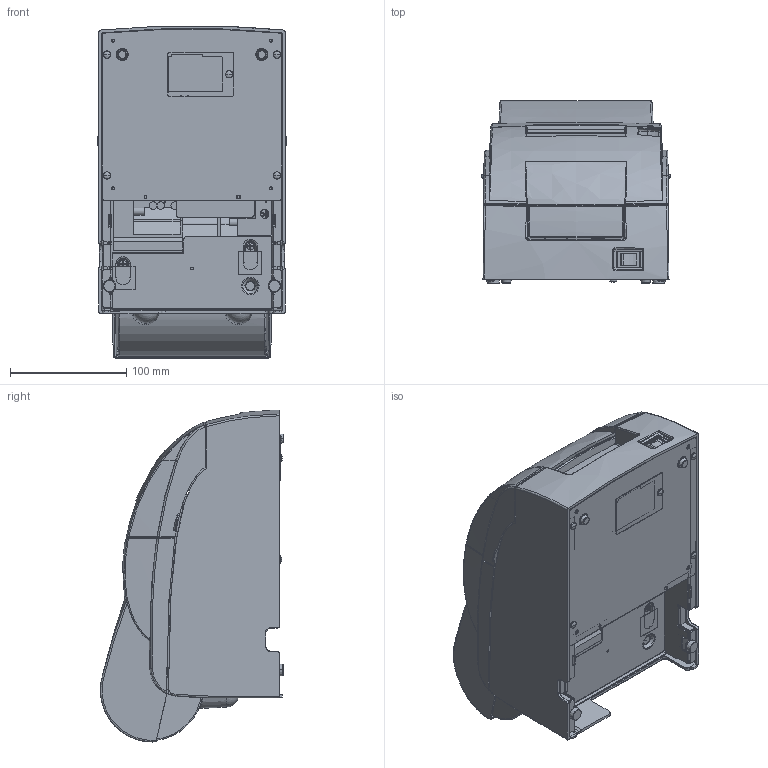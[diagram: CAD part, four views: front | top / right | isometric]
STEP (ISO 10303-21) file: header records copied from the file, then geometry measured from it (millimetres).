
FILE_DESCRIPTION((''),'2;1');
FILE_NAME('TM-U220IIA_CLOSE','2024-12-26T13:59:10',('5012938'),(''),'CREO PARAMETRIC BY PTC INC, 2022281','CREO PARAMETRIC BY PTC INC, 2022281','');
FILE_SCHEMA(('AUTOMOTIVE_DESIGN { 1 0 10303 214 1 1 1 1 }'));
Products named in the file (1): TM-U220IIA_CLOSE
Bounding box: 162.5 x 157.43 x 285.57 mm (x, y, z)
Surface area: 651595.9 mm2 (no closed solid volume)
Topology: 0 solids, 61 shells, 4973 faces, 14719 edges, 9639 vertices
Faces by surface type: plane 2512, cylinder 1563, bspline 485, cone 155, extrusion 102, torus 97, sphere 59
Entity records: 203509 total; most frequent: CARTESIAN_POINT 74909, ORIENTED_EDGE 27665, DIRECTION 24529, EDGE_CURVE 14701, VERTEX_POINT 9639, VECTOR 8973, LINE 8871, AXIS2_PLACEMENT_3D 7778
